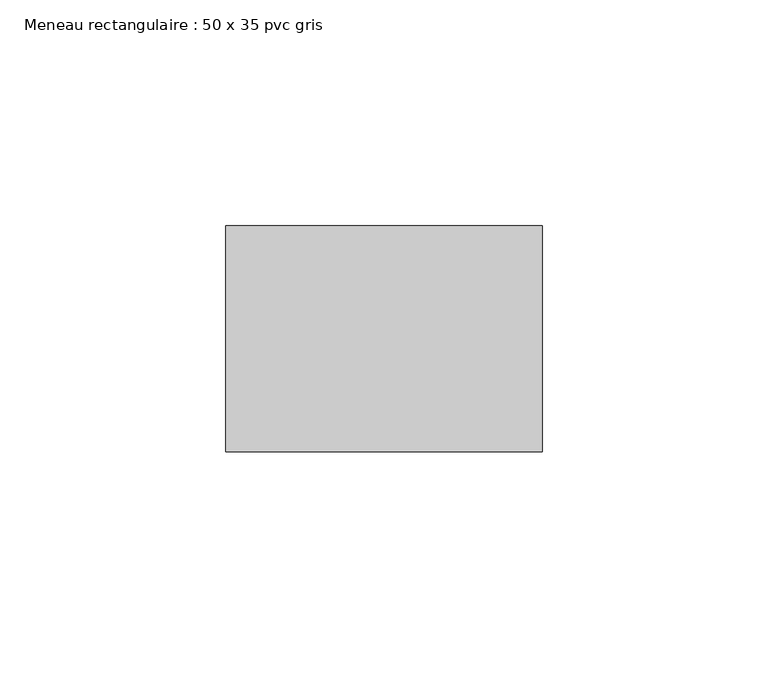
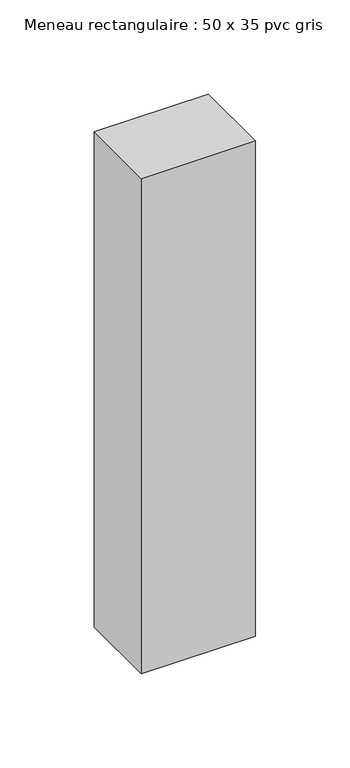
"""IFC4 building model written with IfcOpenShell, lengths in millimetres: member geometry, Meneau rectangulaire : 50 x 35 pvc gris."""

import ifcopenshell
import ifcopenshell.guid

model = None  # the IFC model being written
_history = None  # IfcOwnerHistory: only IFC2X3 demands one
_inside = {}  # id of a spatial element -> (the spatial element, [elements in it])
_under = {}  # id of a project, library or spatial element -> (it, [spatial elements below it])
_declared = {}  # id of a project -> (the project, [libraries it declares])
_typed = {}  # id of a type object -> (the type object, [elements of that type])
_made_of = {}  # id of a material, layer set ... -> (it, [elements and type objects made of it])


def new_model(schema):
    """Start an empty IFC model of exactly this schema.

    Asked for "IFC4X3", IfcOpenShell would pick the latest addendum, in which some entities
    have other attributes; the version numbers below select the first issue.
    IFC2X3 requires an IfcOwnerHistory on every rooted entity: one is made here for all.
    """
    global model, _history
    if schema == "IFC4X3":
        model = ifcopenshell.file(schema_version=(4, 3, 0, 0))
    else:
        model = ifcopenshell.file(schema=schema)
    _inside.clear()
    _under.clear()
    _declared.clear()
    _typed.clear()
    _made_of.clear()
    _history = None
    if model.schema == "IFC2X3":
        org = make("IfcOrganization", Name="unknown")
        user = make(
            "IfcPersonAndOrganization",
            ThePerson=make("IfcPerson", FamilyName="unknown"),
            TheOrganization=org,
        )
        app = make(
            "IfcApplication",
            ApplicationDeveloper=org,
            Version="unknown",
            ApplicationFullName="unknown",
            ApplicationIdentifier="unknown",
        )
        _history = make(
            "IfcOwnerHistory",
            OwningUser=user,
            OwningApplication=app,
            ChangeAction="ADDED",
            CreationDate=0,
        )
    return model


def make(cls, **values):
    """One entity of the class cls with the attributes given. An attribute that is None is left unset."""
    return model.create_entity(
        cls, **{name: value for name, value in values.items() if value is not None}
    )


def rooted(cls, **values):
    """An entity with a GlobalId (a new one), such as an element, a storey or a relation."""
    return make(cls, GlobalId=ifcopenshell.guid.new(), OwnerHistory=_history, **values)


def si_unit(unit_type, name, prefix=None):
    """IfcSIUnit, for example si_unit("LENGTHUNIT", "METRE", prefix="MILLI")."""
    return make("IfcSIUnit", UnitType=unit_type, Prefix=prefix, Name=name)


def assignment(units):
    """IfcUnitAssignment: the units of a project."""
    return None if units is None else make("IfcUnitAssignment", Units=units)


def point(xyz):
    """IfcCartesianPoint."""
    return None if xyz is None else make("IfcCartesianPoint", Coordinates=xyz)


def direction(xyz):
    """IfcDirection."""
    return None if xyz is None else make("IfcDirection", DirectionRatios=xyz)


def frame(location, z_axis=None, x_axis=None):
    """IfcAxis2Placement3D, a coordinate frame: its origin and axes. An axis left out is left unset."""
    return make(
        "IfcAxis2Placement3D",
        Location=point(location),
        Axis=direction(z_axis),
        RefDirection=direction(x_axis),
    )


def origin():
    """The frame at (0, 0, 0) with its axes left unset."""
    return frame((0.0, 0.0, 0.0))


def place(relative_to, where):
    """IfcLocalPlacement: puts the frame where relative to a parent placement (None: the world)."""
    return make(
        "IfcLocalPlacement", PlacementRelTo=relative_to, RelativePlacement=where
    )


def context(
    kind, dimensions, precision=None, world=None, true_north=None, identifier=None
):
    """IfcGeometricRepresentationContext, for example the 3D "Model" context."""
    return make(
        "IfcGeometricRepresentationContext",
        ContextIdentifier=identifier,
        ContextType=kind,
        CoordinateSpaceDimension=dimensions,
        Precision=precision,
        WorldCoordinateSystem=world,
        TrueNorth=true_north,
    )


def project(units=None, contexts=None):
    """IfcProject with its units and contexts."""
    return rooted(
        "IfcProject",
        Name="project",
        RepresentationContexts=contexts,
        UnitsInContext=assignment(units),
    )


def spatial(cls, under=None, at=None, **own):
    """A site, building, storey or space (cls), placed at a placement, below another one or the project."""
    s = rooted(cls, ObjectPlacement=at, **own)
    if under is not None:
        _under.setdefault(under.id(), (under, []))[1].append(s)
    return s


def polyline(points):
    """IfcPolyline through the points."""
    return make("IfcPolyline", Points=[point(p) for p in points])


def outline(outer, holes=None, kind="AREA"):
    """IfcArbitraryClosedProfileDef: a profile drawn as a closed curve; with holes, ...WithVoids."""
    if holes is None:
        return make("IfcArbitraryClosedProfileDef", ProfileType=kind, OuterCurve=outer)
    return make(
        "IfcArbitraryProfileDefWithVoids",
        ProfileType=kind,
        OuterCurve=outer,
        InnerCurves=holes,
    )


def extrude(swept, where, along, depth):
    """IfcExtrudedAreaSolid: the profile swept, set in the frame where, extruded along a direction by depth."""
    return make(
        "IfcExtrudedAreaSolid",
        SweptArea=swept,
        Position=where,
        ExtrudedDirection=direction(along),
        Depth=depth,
    )


def shape(context_of_items, identifier, shape_type, items):
    """IfcShapeRepresentation: the items that make up one representation, for example the "Body"."""
    return make(
        "IfcShapeRepresentation",
        ContextOfItems=context_of_items,
        RepresentationIdentifier=identifier,
        RepresentationType=shape_type,
        Items=items,
    )


def source(mapping_origin, context_of_items, identifier, shape_type, items):
    """IfcRepresentationMap: a shape defined once, which mapped items show again and again."""
    return make(
        "IfcRepresentationMap",
        MappingOrigin=mapping_origin,
        MappedRepresentation=shape(context_of_items, identifier, shape_type, items),
    )


def transform(
    local_origin,
    x_axis=None,
    y_axis=None,
    z_axis=None,
    scale=None,
    scale2=None,
    scale3=None,
    uniform=True,
):
    """IfcCartesianTransformationOperator3D, or its non-uniform kind. x_axis, y_axis, z_axis: its Axis1, 2, 3."""
    if uniform:
        return make(
            "IfcCartesianTransformationOperator3D",
            Axis1=direction(x_axis),
            Axis2=direction(y_axis),
            LocalOrigin=point(local_origin),
            Scale=scale,
            Axis3=direction(z_axis),
        )
    return make(
        "IfcCartesianTransformationOperator3DnonUniform",
        Axis1=direction(x_axis),
        Axis2=direction(y_axis),
        LocalOrigin=point(local_origin),
        Scale=scale,
        Axis3=direction(z_axis),
        Scale2=scale2,
        Scale3=scale3,
    )


def mapped(mapping_source, mapping_target):
    """IfcMappedItem: shows the shape of a source again, moved by a transform."""
    return make(
        "IfcMappedItem", MappingSource=mapping_source, MappingTarget=mapping_target
    )


def made_of(thing, what):
    """Note that an element or type object is made of a material, layer set ...; save() writes the relation."""
    if what is not None:
        _made_of.setdefault(what.id(), (what, []))[1].append(thing)
    return thing


def element(
    cls,
    number,
    at=None,
    inside=None,
    cuts=None,
    type_object=None,
    material=None,
    context=None,
    identifier="Body",
    shape_type=None,
    held_by="IfcProductDefinitionShape",
    body=None,
    shapes=None,
    **own,
):
    """One element of the class cls, such as IfcWall. Its Tag is "e" and its number.

    at: its placement. inside: the storey or other place that contains it. cuts: it is an
    opening in that element (IfcRelVoidsElement). A single representation is given by context,
    identifier, shape_type and body (its items); several are given by shapes. held_by: the class
    of the entity that holds the representations. save() writes the other relations.
    """
    e = rooted(cls, Tag="e%d" % number, ObjectPlacement=at, **own)
    if body is not None:
        shapes = [shape(context, identifier, shape_type, body)]
    if shapes is not None:
        e.Representation = make(held_by, Representations=shapes)
    if inside is not None:
        _inside.setdefault(inside.id(), (inside, []))[1].append(e)
    if cuts is not None:
        rooted(
            "IfcRelVoidsElement", RelatingBuildingElement=cuts, RelatedOpeningElement=e
        )
    if type_object is not None:
        _typed.setdefault(type_object.id(), (type_object, []))[1].append(e)
    return made_of(e, material)


def aggregate(whole, parts):
    """IfcRelAggregates: a whole, such as a stair, and the parts it consists of."""
    return rooted("IfcRelAggregates", RelatingObject=whole, RelatedObjects=parts)


def save(model, path):
    """Write the relations noted so far, then the file.

    IfcRelAggregates (storeys below a building ...), IfcRelContainedInSpatialStructure (elements
    in a storey), IfcRelDefinesByType, IfcRelAssociatesMaterial and IfcRelDeclares: one each for
    every whole, place, type object, material and project.
    """
    for whole, parts in _under.values():
        aggregate(whole, parts)
    for where, things in _inside.values():
        rooted(
            "IfcRelContainedInSpatialStructure",
            RelatedElements=things,
            RelatingStructure=where,
        )
    for kind, things in _typed.values():
        rooted("IfcRelDefinesByType", RelatedObjects=things, RelatingType=kind)
    for what, things in _made_of.values():
        rooted("IfcRelAssociatesMaterial", RelatedObjects=things, RelatingMaterial=what)
    for by, libraries in _declared.values():
        rooted("IfcRelDeclares", RelatingContext=by, RelatedDefinitions=libraries)
    model.write(path)


def meneau_rectangulaire_50_x_35_pvc_gris_29c1994b(model_context):
    return source(origin(), model_context, "Body", "SweptSolid", [
        extrude(outline(polyline([(0.0, 0.0), (0.0, -50.0), (-70.0, -50.0), (-70.0, 0.0), (0.0, 0.0)])), frame((0.0, 0.0, -321.0), z_axis=(0.0, 0.0, 1.0), x_axis=(1.0, 0.0, 0.0)), (0.0, 0.0, 1.0), 321.0),
    ])


if __name__ == "__main__":
    model = new_model("IFC4")
    model_context = context("Model", 3, world=origin())
    ifc_project = project(units=[si_unit("LENGTHUNIT", "METRE", prefix="MILLI")], contexts=[model_context])
    site = spatial("IfcSite", under=ifc_project)
    building = spatial("IfcBuilding", under=site)
    placement = place(None, origin())
    meneau_rectangulaire_50_x_35_pvc_gris_shape = meneau_rectangulaire_50_x_35_pvc_gris_29c1994b(model_context)
    element("IfcMember", 1, ObjectType="Meneau rectangulaire : 50 x 35 pvc gris", at=placement, inside=building, context=model_context, shape_type="MappedRepresentation", body=[
        mapped(meneau_rectangulaire_50_x_35_pvc_gris_shape, transform((0.0, 0.0, 0.0), x_axis=(1.0, 0.0, 0.0), y_axis=(0.0, 1.0, 0.0), z_axis=(0.0, 0.0, 1.0))),
    ])
    save(model, "model.ifc")
